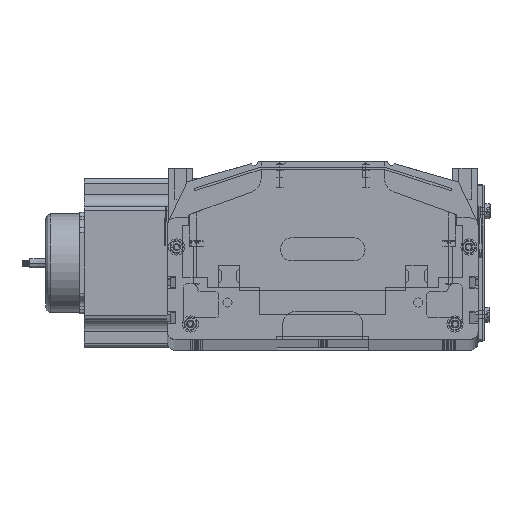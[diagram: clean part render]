
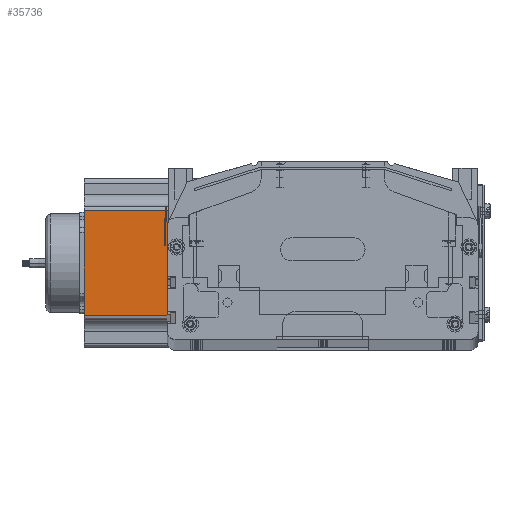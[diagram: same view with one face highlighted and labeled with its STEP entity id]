
A CAD part, top view. The second image highlights one B-rep face of the part: STEP entity #35736.
In plain terms, the highlighted planar face has unit normal (0, 0, 1) as drawn and (0, -1, 0) by its records, which use the part's own axes.
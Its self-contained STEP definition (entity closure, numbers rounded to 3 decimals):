
#35649 = ORIENTED_EDGE ( 'NONE', *, *, #35706, .T. ) ;
#35704 = VERTEX_POINT ( 'NONE', #63420 ) ;
#35705 = ORIENTED_EDGE ( 'NONE', *, *, #35731, .T. ) ;
#35706 = EDGE_CURVE ( 'NONE', #35789, #35704, #63480, .T. ) ;
#35708 = VERTEX_POINT ( 'NONE', #63470 ) ;
#35709 = EDGE_CURVE ( 'NONE', #35708, #35704, #63475, .T. ) ;
#35711 = ORIENTED_EDGE ( 'NONE', *, *, #35709, .F. ) ;
#35712 = EDGE_CURVE ( 'NONE', #35708, #35742, #63551, .T. ) ;
#35731 = EDGE_CURVE ( 'NONE', #35742, #35789, #61664, .T. ) ;
#35734 = ORIENTED_EDGE ( 'NONE', *, *, #35712, .T. ) ;
#35736 = ADVANCED_FACE ( 'NONE', ( #63954 ), #63849, .F. ) ;
#35741 = EDGE_LOOP ( 'NONE', ( #35705, #35649, #35711, #35734 ) ) ;
#35742 = VERTEX_POINT ( 'NONE', #63958 ) ;
#35789 = VERTEX_POINT ( 'NONE', #63885 ) ;
#61664 = LINE ( 'NONE', #62420, #62467 ) ;
#62420 = CARTESIAN_POINT ( 'NONE',  ( 0., 0., 0. ) ) ;
#62458 = DIRECTION ( 'NONE',  ( 1., 0., 0. ) ) ;
#62467 = VECTOR ( 'NONE', #62458, 1000. ) ;
#63286 = CARTESIAN_POINT ( 'NONE',  ( 88.952, 0., 160.5 ) ) ;
#63420 = CARTESIAN_POINT ( 'NONE',  ( 88.952, 0., 160.5 ) ) ;
#63470 = CARTESIAN_POINT ( 'NONE',  ( 21.048, 0., 160.5 ) ) ;
#63471 = DIRECTION ( 'NONE',  ( 0., 0., 1. ) ) ;
#63472 = VECTOR ( 'NONE', #63471, 1000. ) ;
#63475 = LINE ( 'NONE', #63567, #63565 ) ;
#63480 = LINE ( 'NONE', #63286, #63472 ) ;
#63543 = DIRECTION ( 'NONE',  ( 0., 0., -1. ) ) ;
#63544 = VECTOR ( 'NONE', #63543, 1000. ) ;
#63550 = CARTESIAN_POINT ( 'NONE',  ( 21.048, 0., 160.5 ) ) ;
#63551 = LINE ( 'NONE', #63550, #63544 ) ;
#63563 = DIRECTION ( 'NONE',  ( 1., 0., 0. ) ) ;
#63565 = VECTOR ( 'NONE', #63563, 1000. ) ;
#63567 = CARTESIAN_POINT ( 'NONE',  ( 0., 0., 160.5 ) ) ;
#63718 = AXIS2_PLACEMENT_3D ( 'NONE', #63822, #63821, #64024 ) ;
#63821 = DIRECTION ( 'NONE',  ( 0., 1., 0. ) ) ;
#63822 = CARTESIAN_POINT ( 'NONE',  ( 0., 0., 160.5 ) ) ;
#63849 = PLANE ( 'NONE',  #63718 ) ;
#63885 = CARTESIAN_POINT ( 'NONE',  ( 88.952, 0., 0. ) ) ;
#63954 = FACE_OUTER_BOUND ( 'NONE', #35741, .T. ) ;
#63958 = CARTESIAN_POINT ( 'NONE',  ( 21.048, 0., 0. ) ) ;
#64024 = DIRECTION ( 'NONE',  ( 0., 0., 1. ) ) ;
